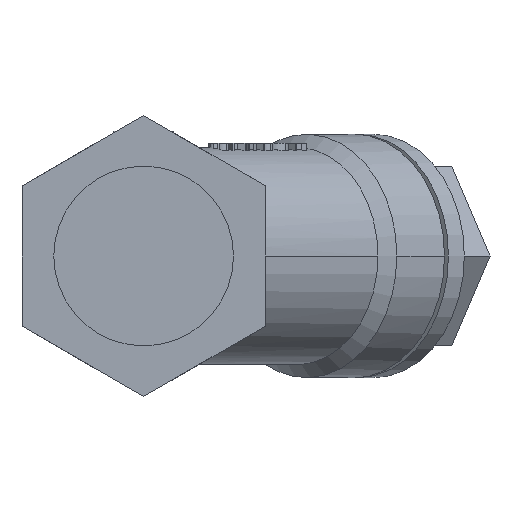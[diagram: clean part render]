
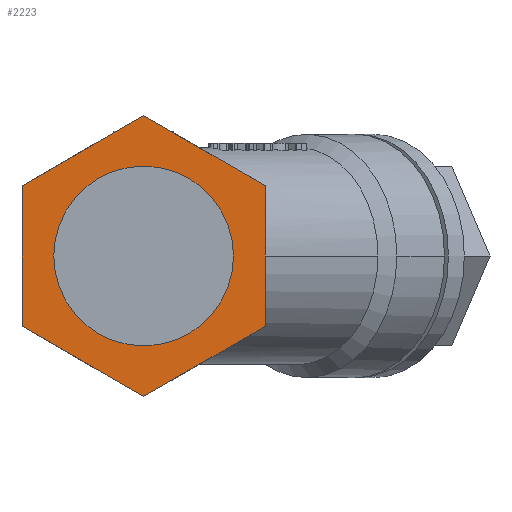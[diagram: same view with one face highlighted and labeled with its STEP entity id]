
A CAD part, left-side view. The second image highlights one B-rep face of the part: STEP entity #2223.
In plain terms, the highlighted planar face has unit normal (-1, 0, 0).
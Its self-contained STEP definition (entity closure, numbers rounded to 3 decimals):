
#126 = EDGE_LOOP ( 'NONE', ( #3720, #2549 ) ) ;
#165 = VECTOR ( 'NONE', #2768, 1000. ) ;
#166 = DIRECTION ( 'NONE',  ( 0., -0.866, 0.5 ) ) ;
#238 = DIRECTION ( 'NONE',  ( -1., 0., 0. ) ) ;
#290 = DIRECTION ( 'NONE',  ( -1., 0., 0. ) ) ;
#307 = EDGE_CURVE ( 'NONE', #2606, #5201, #6639, .T. ) ;
#472 = AXIS2_PLACEMENT_3D ( 'NONE', #877, #290, #2439 ) ;
#518 = FACE_BOUND ( 'NONE', #126, .T. ) ;
#575 = VECTOR ( 'NONE', #2558, 1000. ) ;
#625 = VECTOR ( 'NONE', #4349, 1000. ) ;
#637 = VECTOR ( 'NONE', #3000, 1000. ) ;
#641 = ORIENTED_EDGE ( 'NONE', *, *, #5266, .T. ) ;
#691 = CARTESIAN_POINT ( 'NONE',  ( -31., 20.5, -11.836 ) ) ;
#740 = AXIS2_PLACEMENT_3D ( 'NONE', #3971, #238, #1433 ) ;
#877 = CARTESIAN_POINT ( 'NONE',  ( -31., 0., 0. ) ) ;
#974 = CARTESIAN_POINT ( 'NONE',  ( -31., -20.5, 11.836 ) ) ;
#988 = LINE ( 'NONE', #4593, #575 ) ;
#1065 = DIRECTION ( 'NONE',  ( 1., 0., 0. ) ) ;
#1217 = ORIENTED_EDGE ( 'NONE', *, *, #4471, .T. ) ;
#1289 = CARTESIAN_POINT ( 'NONE',  ( -31., 20.5, 11.836 ) ) ;
#1359 = CARTESIAN_POINT ( 'NONE',  ( -31., 20.5, 11.836 ) ) ;
#1433 = DIRECTION ( 'NONE',  ( 0., 0., 1. ) ) ;
#1474 = VERTEX_POINT ( 'NONE', #6206 ) ;
#1721 = VECTOR ( 'NONE', #3367, 1000. ) ;
#1939 = CARTESIAN_POINT ( 'NONE',  ( -31., 0., -23.671 ) ) ;
#2017 = VERTEX_POINT ( 'NONE', #5939 ) ;
#2223 = ADVANCED_FACE ( 'NONE', ( #518, #5225 ), #3761, .F. ) ;
#2233 = ORIENTED_EDGE ( 'NONE', *, *, #6466, .T. ) ;
#2278 = CARTESIAN_POINT ( 'NONE',  ( -31., -20.5, 11.836 ) ) ;
#2439 = DIRECTION ( 'NONE',  ( 0., 0., 1. ) ) ;
#2549 = ORIENTED_EDGE ( 'NONE', *, *, #4249, .F. ) ;
#2558 = DIRECTION ( 'NONE',  ( 0., 0.866, -0.5 ) ) ;
#2606 = VERTEX_POINT ( 'NONE', #3224 ) ;
#2768 = DIRECTION ( 'NONE',  ( 0., -0.866, -0.5 ) ) ;
#2987 = VERTEX_POINT ( 'NONE', #3603 ) ;
#3000 = DIRECTION ( 'NONE',  ( 0., 0., 1. ) ) ;
#3040 = EDGE_CURVE ( 'NONE', #1474, #2606, #5848, .T. ) ;
#3041 = CARTESIAN_POINT ( 'NONE',  ( -31., -20.5, -11.836 ) ) ;
#3224 = CARTESIAN_POINT ( 'NONE',  ( -31., 0., -23.671 ) ) ;
#3367 = DIRECTION ( 'NONE',  ( 0., 0., -1. ) ) ;
#3583 = AXIS2_PLACEMENT_3D ( 'NONE', #5742, #1065, #4281 ) ;
#3603 = CARTESIAN_POINT ( 'NONE',  ( -31., 0., 23.671 ) ) ;
#3619 = VERTEX_POINT ( 'NONE', #1359 ) ;
#3720 = ORIENTED_EDGE ( 'NONE', *, *, #5555, .F. ) ;
#3761 = PLANE ( 'NONE',  #3583 ) ;
#3971 = CARTESIAN_POINT ( 'NONE',  ( -31., 0., 0. ) ) ;
#4004 = VERTEX_POINT ( 'NONE', #974 ) ;
#4207 = CARTESIAN_POINT ( 'NONE',  ( -31., 0., 15.145 ) ) ;
#4249 = EDGE_CURVE ( 'NONE', #2017, #4434, #4797, .T. ) ;
#4281 = DIRECTION ( 'NONE',  ( 0., 0., -1. ) ) ;
#4349 = DIRECTION ( 'NONE',  ( 0., 0.866, 0.5 ) ) ;
#4434 = VERTEX_POINT ( 'NONE', #4207 ) ;
#4471 = EDGE_CURVE ( 'NONE', #5201, #4004, #4696, .T. ) ;
#4593 = CARTESIAN_POINT ( 'NONE',  ( -31., 0., 23.671 ) ) ;
#4595 = ORIENTED_EDGE ( 'NONE', *, *, #307, .T. ) ;
#4696 = LINE ( 'NONE', #6786, #637 ) ;
#4700 = EDGE_CURVE ( 'NONE', #3619, #1474, #6068, .T. ) ;
#4797 = CIRCLE ( 'NONE', #740, 15.145 ) ;
#4833 = LINE ( 'NONE', #2278, #625 ) ;
#5201 = VERTEX_POINT ( 'NONE', #3041 ) ;
#5225 = FACE_OUTER_BOUND ( 'NONE', #5813, .T. ) ;
#5265 = ORIENTED_EDGE ( 'NONE', *, *, #4700, .T. ) ;
#5266 = EDGE_CURVE ( 'NONE', #2987, #3619, #988, .T. ) ;
#5482 = ORIENTED_EDGE ( 'NONE', *, *, #3040, .T. ) ;
#5555 = EDGE_CURVE ( 'NONE', #4434, #2017, #6379, .T. ) ;
#5742 = CARTESIAN_POINT ( 'NONE',  ( -31., 0., 0. ) ) ;
#5813 = EDGE_LOOP ( 'NONE', ( #2233, #641, #5265, #5482, #4595, #1217 ) ) ;
#5848 = LINE ( 'NONE', #691, #165 ) ;
#5939 = CARTESIAN_POINT ( 'NONE',  ( -31., 0., -15.145 ) ) ;
#6068 = LINE ( 'NONE', #1289, #1721 ) ;
#6206 = CARTESIAN_POINT ( 'NONE',  ( -31., 20.5, -11.836 ) ) ;
#6379 = CIRCLE ( 'NONE', #472, 15.145 ) ;
#6466 = EDGE_CURVE ( 'NONE', #4004, #2987, #4833, .T. ) ;
#6589 = VECTOR ( 'NONE', #166, 1000. ) ;
#6639 = LINE ( 'NONE', #1939, #6589 ) ;
#6786 = CARTESIAN_POINT ( 'NONE',  ( -31., -20.5, -11.836 ) ) ;
